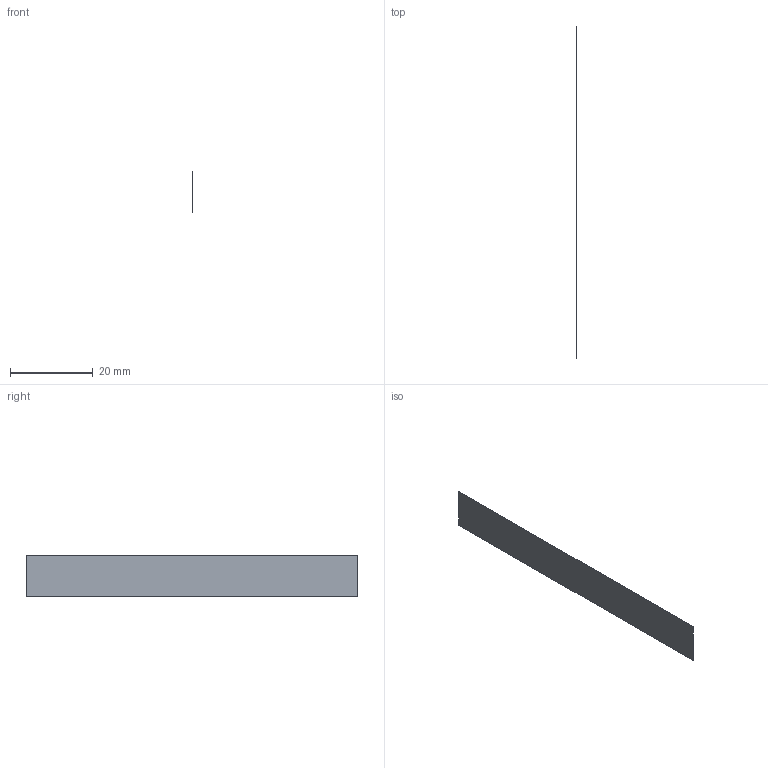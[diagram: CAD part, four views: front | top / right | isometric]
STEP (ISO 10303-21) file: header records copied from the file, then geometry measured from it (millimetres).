
FILE_DESCRIPTION(('FreeCAD Model'),'2;1');
FILE_NAME('Open CASCADE Shape Model','2026-09-11T22:19:04',('FreeCAD'),( 'FreeCAD'),'Open CASCADE STEP processor 7.8','FreeCAD','Unknown');
FILE_SCHEMA(('AUTOMOTIVE_DESIGN { 1 0 10303 214 1 1 1 1 }'));
Length unit declared in the file: millimetre
Products named in the file (1): Open CASCADE STEP translator 7.8 9
Bounding box: 0 x 80 x 10 mm (x, y, z)
Surface area: 800 mm2 (no closed solid volume)
Topology: 0 solids, 1 shells, 1 faces, 4 edges, 4 vertices
Faces by surface type: plane 1
Entity records: 58 total; most frequent: CARTESIAN_POINT 10, DIRECTION 8, ORIENTED_EDGE 4, EDGE_CURVE 4, VERTEX_POINT 4, LINE 4, VECTOR 4, AXIS2_PLACEMENT_3D 2
